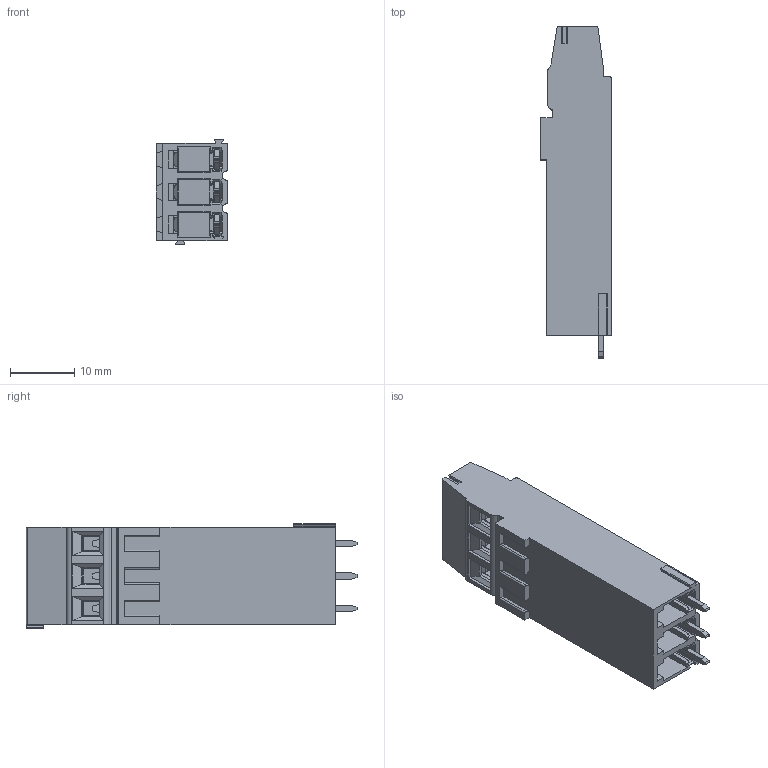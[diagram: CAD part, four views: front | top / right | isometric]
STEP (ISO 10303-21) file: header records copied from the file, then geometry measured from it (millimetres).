
FILE_DESCRIPTION((''),'2;1');
FILE_NAME('3PIN_ASM_1','2019-09-29T',('renkang.li'),(''),'CREO PARAMETRIC BY PTC INC, 2016260','CREO PARAMETRIC BY PTC INC, 2016260','');
FILE_SCHEMA(('CONFIG_CONTROL_DESIGN'));
Length unit declared in the file: millimetre
Products named in the file (1): 3PIN_ASM_1
Bounding box: 11.16 x 51.8 x 16.38 mm (x, y, z)
Volume: 3566.9 mm3; surface area: 8173.4 mm2
Topology: 1 solids, 1 shells, 799 faces, 2339 edges, 1510 vertices
Faces by surface type: plane 521, cylinder 212, bspline 30, cone 24, torus 12
Entity records: 38263 total; most frequent: CARTESIAN_POINT 17461, ORIENTED_EDGE 4678, DIRECTION 3861, EDGE_CURVE 2339, VECTOR 1645, LINE 1645, VERTEX_POINT 1510, AXIS2_PLACEMENT_3D 1108
